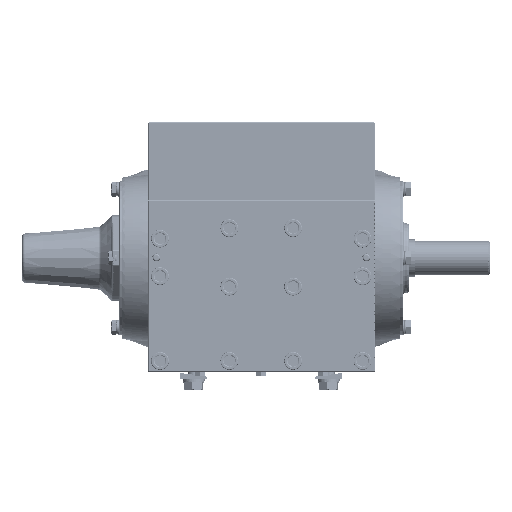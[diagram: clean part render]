
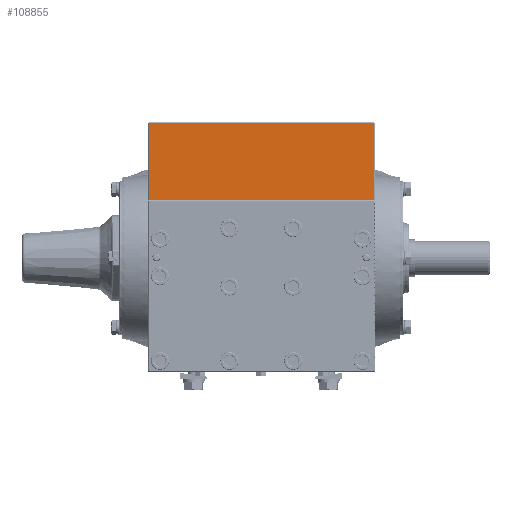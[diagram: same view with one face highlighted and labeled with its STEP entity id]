
A CAD part, top view. The second image highlights one B-rep face of the part: STEP entity #108855.
In plain terms, the highlighted planar face has unit normal (0, 0, 1).
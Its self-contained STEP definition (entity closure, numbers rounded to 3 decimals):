
#13121 = ORIENTED_EDGE ( 'NONE', *, *, #141960, .T. ) ;
#13122 = ORIENTED_EDGE ( 'NONE', *, *, #141962, .T. ) ;
#13123 = ORIENTED_EDGE ( 'NONE', *, *, #141957, .T. ) ;
#13124 = ORIENTED_EDGE ( 'NONE', *, *, #141964, .T. ) ;
#23282 = VERTEX_POINT ( 'NONE', #148237 ) ;
#23307 = VERTEX_POINT ( 'NONE', #148262 ) ;
#23314 = VERTEX_POINT ( 'NONE', #148269 ) ;
#23318 = VERTEX_POINT ( 'NONE', #148273 ) ;
#45703 = VECTOR ( 'NONE', #55274, 1000. ) ;
#45706 = VECTOR ( 'NONE', #55277, 1000. ) ;
#45708 = VECTOR ( 'NONE', #55280, 1000. ) ;
#45711 = VECTOR ( 'NONE', #55283, 1000. ) ;
#55272 = LINE ( 'NONE', #55273, #45703 ) ;
#55273 = CARTESIAN_POINT ( 'NONE',  ( 151., 217.5, 204. ) ) ;
#55274 = DIRECTION ( 'NONE',  ( -1., 0., 0. ) ) ;
#55275 = LINE ( 'NONE', #55276, #45706 ) ;
#55276 = CARTESIAN_POINT ( 'NONE',  ( 150., 114.5, 204. ) ) ;
#55277 = DIRECTION ( 'NONE',  ( 0., 1., 0. ) ) ;
#55278 = LINE ( 'NONE', #55279, #45708 ) ;
#55279 = CARTESIAN_POINT ( 'NONE',  ( -150., 114.5, 204. ) ) ;
#55280 = DIRECTION ( 'NONE',  ( 0., -1., 0. ) ) ;
#55281 = LINE ( 'NONE', #55282, #45711 ) ;
#55282 = CARTESIAN_POINT ( 'NONE',  ( 151., 115.5, 204. ) ) ;
#55283 = DIRECTION ( 'NONE',  ( 1., 0., 0. ) ) ;
#74408 = EDGE_LOOP ( 'NONE', ( #13121, #13123, #13122, #13124 ) ) ;
#108855 = ADVANCED_FACE ( 'NONE', ( #116027 ), #124364, .F. ) ;
#116027 = FACE_OUTER_BOUND ( 'NONE', #74408, .T. ) ;
#116033 = AXIS2_PLACEMENT_3D ( 'NONE', #124365, #124366, #124367 ) ;
#124364 = PLANE ( 'NONE',  #116033 ) ;
#124365 = CARTESIAN_POINT ( 'NONE',  ( 151., 114.5, 204. ) ) ;
#124366 = DIRECTION ( 'NONE',  ( 0., 0., -1. ) ) ;
#124367 = DIRECTION ( 'NONE',  ( -1., 0., 0. ) ) ;
#141957 = EDGE_CURVE ( 'NONE', #23314, #23318, #55272, .T. ) ;
#141960 = EDGE_CURVE ( 'NONE', #23282, #23314, #55275, .T. ) ;
#141962 = EDGE_CURVE ( 'NONE', #23318, #23307, #55278, .T. ) ;
#141964 = EDGE_CURVE ( 'NONE', #23307, #23282, #55281, .T. ) ;
#148237 = CARTESIAN_POINT ( 'NONE',  ( 150., 115.5, 204. ) ) ;
#148262 = CARTESIAN_POINT ( 'NONE',  ( -150., 115.5, 204. ) ) ;
#148269 = CARTESIAN_POINT ( 'NONE',  ( 150., 217.5, 204. ) ) ;
#148273 = CARTESIAN_POINT ( 'NONE',  ( -150., 217.5, 204. ) ) ;
